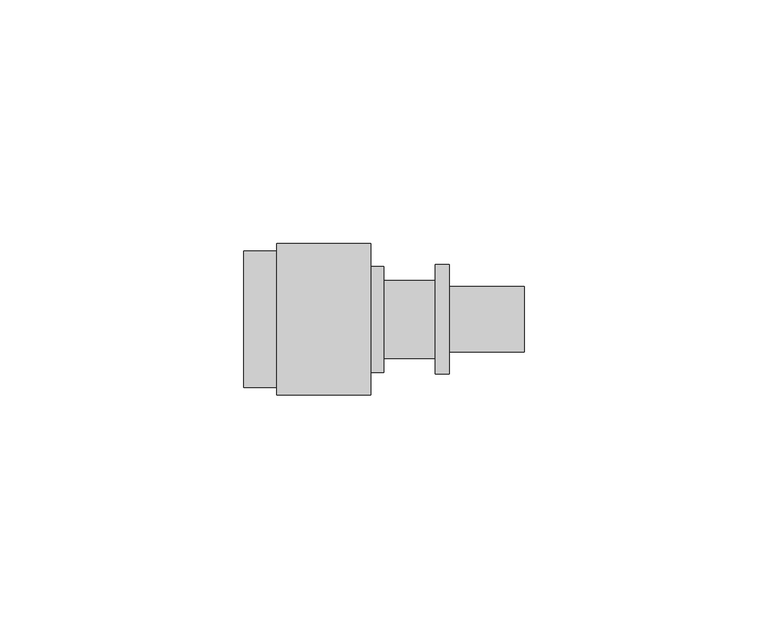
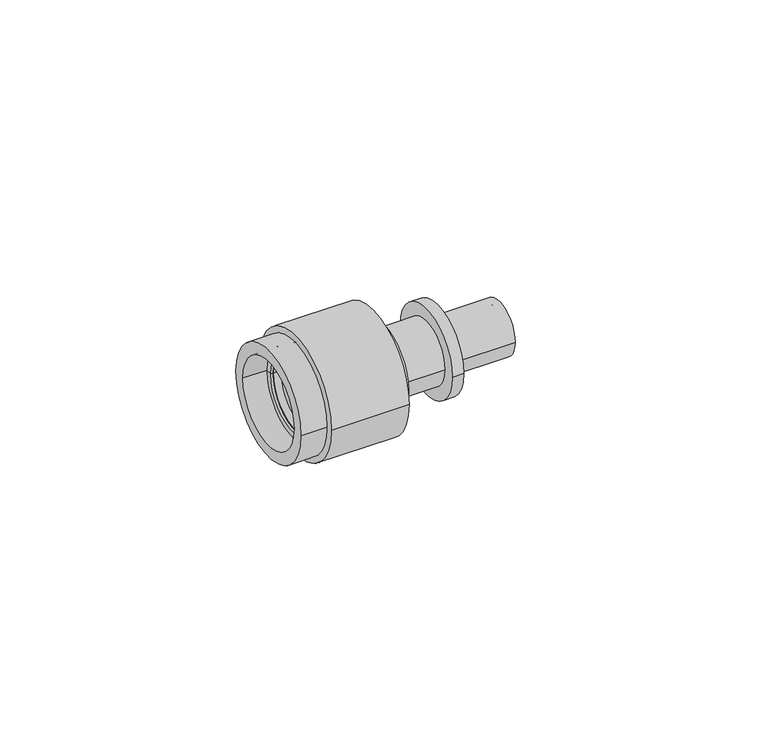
"""IFC4 building model written with IfcOpenShell, lengths in millimetres: pipe fitting geometry, REHAU_RAUTITAN_Adaptor RX+, MeplaFix : REHAU_RAUTITAN_Adaptor RX+, MeplaFix."""

import ifcopenshell
import ifcopenshell.guid

model = None  # the IFC model being written
_history = None  # IfcOwnerHistory: only IFC2X3 demands one
_inside = {}  # id of a spatial element -> (the spatial element, [elements in it])
_under = {}  # id of a project, library or spatial element -> (it, [spatial elements below it])
_declared = {}  # id of a project -> (the project, [libraries it declares])
_typed = {}  # id of a type object -> (the type object, [elements of that type])
_made_of = {}  # id of a material, layer set ... -> (it, [elements and type objects made of it])


def new_model(schema):
    """Start an empty IFC model of exactly this schema.

    Asked for "IFC4X3", IfcOpenShell would pick the latest addendum, in which some entities
    have other attributes; the version numbers below select the first issue.
    IFC2X3 requires an IfcOwnerHistory on every rooted entity: one is made here for all.
    """
    global model, _history
    if schema == "IFC4X3":
        model = ifcopenshell.file(schema_version=(4, 3, 0, 0))
    else:
        model = ifcopenshell.file(schema=schema)
    _inside.clear()
    _under.clear()
    _declared.clear()
    _typed.clear()
    _made_of.clear()
    _history = None
    if model.schema == "IFC2X3":
        org = make("IfcOrganization", Name="unknown")
        user = make(
            "IfcPersonAndOrganization",
            ThePerson=make("IfcPerson", FamilyName="unknown"),
            TheOrganization=org,
        )
        app = make(
            "IfcApplication",
            ApplicationDeveloper=org,
            Version="unknown",
            ApplicationFullName="unknown",
            ApplicationIdentifier="unknown",
        )
        _history = make(
            "IfcOwnerHistory",
            OwningUser=user,
            OwningApplication=app,
            ChangeAction="ADDED",
            CreationDate=0,
        )
    return model


def make(cls, **values):
    """One entity of the class cls with the attributes given. An attribute that is None is left unset."""
    return model.create_entity(
        cls, **{name: value for name, value in values.items() if value is not None}
    )


def rooted(cls, **values):
    """An entity with a GlobalId (a new one), such as an element, a storey or a relation."""
    return make(cls, GlobalId=ifcopenshell.guid.new(), OwnerHistory=_history, **values)


def si_unit(unit_type, name, prefix=None):
    """IfcSIUnit, for example si_unit("LENGTHUNIT", "METRE", prefix="MILLI")."""
    return make("IfcSIUnit", UnitType=unit_type, Prefix=prefix, Name=name)


def assignment(units):
    """IfcUnitAssignment: the units of a project."""
    return None if units is None else make("IfcUnitAssignment", Units=units)


def point(xyz):
    """IfcCartesianPoint."""
    return None if xyz is None else make("IfcCartesianPoint", Coordinates=xyz)


def direction(xyz):
    """IfcDirection."""
    return None if xyz is None else make("IfcDirection", DirectionRatios=xyz)


def frame(location, z_axis=None, x_axis=None):
    """IfcAxis2Placement3D, a coordinate frame: its origin and axes. An axis left out is left unset."""
    return make(
        "IfcAxis2Placement3D",
        Location=point(location),
        Axis=direction(z_axis),
        RefDirection=direction(x_axis),
    )


def frame_2d(location, x_axis=None):
    """IfcAxis2Placement2D, a coordinate frame in the plane: its origin and x axis."""
    return make(
        "IfcAxis2Placement2D", Location=point(location), RefDirection=direction(x_axis)
    )


def origin():
    """The frame at (0, 0, 0) with its axes left unset."""
    return frame((0.0, 0.0, 0.0))


def origin_2d():
    """The frame at (0, 0) in the plane with its x axis left unset."""
    return frame_2d((0.0, 0.0))


def place(relative_to, where):
    """IfcLocalPlacement: puts the frame where relative to a parent placement (None: the world)."""
    return make(
        "IfcLocalPlacement", PlacementRelTo=relative_to, RelativePlacement=where
    )


def context(
    kind, dimensions, precision=None, world=None, true_north=None, identifier=None
):
    """IfcGeometricRepresentationContext, for example the 3D "Model" context."""
    return make(
        "IfcGeometricRepresentationContext",
        ContextIdentifier=identifier,
        ContextType=kind,
        CoordinateSpaceDimension=dimensions,
        Precision=precision,
        WorldCoordinateSystem=world,
        TrueNorth=true_north,
    )


def project(units=None, contexts=None):
    """IfcProject with its units and contexts."""
    return rooted(
        "IfcProject",
        Name="project",
        RepresentationContexts=contexts,
        UnitsInContext=assignment(units),
    )


def spatial(cls, under=None, at=None, **own):
    """A site, building, storey or space (cls), placed at a placement, below another one or the project."""
    s = rooted(cls, ObjectPlacement=at, **own)
    if under is not None:
        _under.setdefault(under.id(), (under, []))[1].append(s)
    return s


def polyline(points):
    """IfcPolyline through the points."""
    return make("IfcPolyline", Points=[point(p) for p in points])


def circle_curve(where, radius):
    """IfcCircle in the frame where."""
    return make("IfcCircle", Position=where, Radius=radius)


def trimmed(basis, trim1, trim2, sense, master):
    """IfcTrimmedCurve: the piece of a basis curve between two trims."""
    return make(
        "IfcTrimmedCurve",
        BasisCurve=basis,
        Trim1=trim1,
        Trim2=trim2,
        SenseAgreement=sense,
        MasterRepresentation=master,
    )


def segment(curve, same_sense, transition):
    """IfcCompositeCurveSegment."""
    return make(
        "IfcCompositeCurveSegment",
        Transition=transition,
        SameSense=same_sense,
        ParentCurve=curve,
    )


def composite_curve(segments, self_intersect=None):
    """IfcCompositeCurve: segments joined end to end."""
    return make("IfcCompositeCurve", Segments=segments, SelfIntersect=self_intersect)


def outline(outer, holes=None, kind="AREA"):
    """IfcArbitraryClosedProfileDef: a profile drawn as a closed curve; with holes, ...WithVoids."""
    if holes is None:
        return make("IfcArbitraryClosedProfileDef", ProfileType=kind, OuterCurve=outer)
    return make(
        "IfcArbitraryProfileDefWithVoids",
        ProfileType=kind,
        OuterCurve=outer,
        InnerCurves=holes,
    )


def extrude(swept, where, along, depth):
    """IfcExtrudedAreaSolid: the profile swept, set in the frame where, extruded along a direction by depth."""
    return make(
        "IfcExtrudedAreaSolid",
        SweptArea=swept,
        Position=where,
        ExtrudedDirection=direction(along),
        Depth=depth,
    )


def shape(context_of_items, identifier, shape_type, items):
    """IfcShapeRepresentation: the items that make up one representation, for example the "Body"."""
    return make(
        "IfcShapeRepresentation",
        ContextOfItems=context_of_items,
        RepresentationIdentifier=identifier,
        RepresentationType=shape_type,
        Items=items,
    )


def source(mapping_origin, context_of_items, identifier, shape_type, items):
    """IfcRepresentationMap: a shape defined once, which mapped items show again and again."""
    return make(
        "IfcRepresentationMap",
        MappingOrigin=mapping_origin,
        MappedRepresentation=shape(context_of_items, identifier, shape_type, items),
    )


def transform(
    local_origin,
    x_axis=None,
    y_axis=None,
    z_axis=None,
    scale=None,
    scale2=None,
    scale3=None,
    uniform=True,
):
    """IfcCartesianTransformationOperator3D, or its non-uniform kind. x_axis, y_axis, z_axis: its Axis1, 2, 3."""
    if uniform:
        return make(
            "IfcCartesianTransformationOperator3D",
            Axis1=direction(x_axis),
            Axis2=direction(y_axis),
            LocalOrigin=point(local_origin),
            Scale=scale,
            Axis3=direction(z_axis),
        )
    return make(
        "IfcCartesianTransformationOperator3DnonUniform",
        Axis1=direction(x_axis),
        Axis2=direction(y_axis),
        LocalOrigin=point(local_origin),
        Scale=scale,
        Axis3=direction(z_axis),
        Scale2=scale2,
        Scale3=scale3,
    )


def mapped(mapping_source, mapping_target):
    """IfcMappedItem: shows the shape of a source again, moved by a transform."""
    return make(
        "IfcMappedItem", MappingSource=mapping_source, MappingTarget=mapping_target
    )


def made_of(thing, what):
    """Note that an element or type object is made of a material, layer set ...; save() writes the relation."""
    if what is not None:
        _made_of.setdefault(what.id(), (what, []))[1].append(thing)
    return thing


def element(
    cls,
    number,
    at=None,
    inside=None,
    cuts=None,
    type_object=None,
    material=None,
    context=None,
    identifier="Body",
    shape_type=None,
    held_by="IfcProductDefinitionShape",
    body=None,
    shapes=None,
    **own,
):
    """One element of the class cls, such as IfcWall. Its Tag is "e" and its number.

    at: its placement. inside: the storey or other place that contains it. cuts: it is an
    opening in that element (IfcRelVoidsElement). A single representation is given by context,
    identifier, shape_type and body (its items); several are given by shapes. held_by: the class
    of the entity that holds the representations. save() writes the other relations.
    """
    e = rooted(cls, Tag="e%d" % number, ObjectPlacement=at, **own)
    if body is not None:
        shapes = [shape(context, identifier, shape_type, body)]
    if shapes is not None:
        e.Representation = make(held_by, Representations=shapes)
    if inside is not None:
        _inside.setdefault(inside.id(), (inside, []))[1].append(e)
    if cuts is not None:
        rooted(
            "IfcRelVoidsElement", RelatingBuildingElement=cuts, RelatedOpeningElement=e
        )
    if type_object is not None:
        _typed.setdefault(type_object.id(), (type_object, []))[1].append(e)
    return made_of(e, material)


def aggregate(whole, parts):
    """IfcRelAggregates: a whole, such as a stair, and the parts it consists of."""
    return rooted("IfcRelAggregates", RelatingObject=whole, RelatedObjects=parts)


def save(model, path):
    """Write the relations noted so far, then the file.

    IfcRelAggregates (storeys below a building ...), IfcRelContainedInSpatialStructure (elements
    in a storey), IfcRelDefinesByType, IfcRelAssociatesMaterial and IfcRelDeclares: one each for
    every whole, place, type object, material and project.
    """
    for whole, parts in _under.values():
        aggregate(whole, parts)
    for where, things in _inside.values():
        rooted(
            "IfcRelContainedInSpatialStructure",
            RelatedElements=things,
            RelatingStructure=where,
        )
    for kind, things in _typed.values():
        rooted("IfcRelDefinesByType", RelatedObjects=things, RelatingType=kind)
    for what, things in _made_of.values():
        rooted("IfcRelAssociatesMaterial", RelatedObjects=things, RelatingMaterial=what)
    for by, libraries in _declared.values():
        rooted("IfcRelDeclares", RelatingContext=by, RelatedDefinitions=libraries)
    model.write(path)


def plane_surface(at):
    """IfcPlane: the flat surface through the origin of the frame at, square to its z axis."""
    return make("IfcPlane", Position=at)


def cylinder_surface(at, radius):
    """IfcCylindricalSurface: all points at the distance radius from the z axis of the frame at."""
    return make("IfcCylindricalSurface", Position=at, Radius=radius)


def revolved_surface(curve, axis_point, axis_direction):
    """IfcSurfaceOfRevolution: the curve turned about the line through axis_point along axis_direction."""
    return make(
        "IfcSurfaceOfRevolution",
        SweptCurve=make("IfcArbitraryOpenProfileDef", ProfileType="CURVE", Curve=curve),
        AxisPosition=make("IfcAxis1Placement", Location=point(axis_point), Axis=direction(axis_direction)),
    )


def advanced_brep(points, edges, surfaces, faces):
    """IfcAdvancedBrep: a solid bounded by faces that lie on surfaces and meet in shared edges.

    An edge is (start, end): straight between two places in points (the first is 0);
    or (start, end, curve); or (start, end, curve, False) where it runs against its curve.
    A face is (place in surfaces, loops), or (place, loops, False) where it looks against
    its surface's normal. A loop lists edges by number (the first is 1), with a minus sign
    where the edge is run from its end to its start. The first loop is the outer one.
    """
    corners = [point(p) for p in points]
    vertices = [make("IfcVertexPoint", VertexGeometry=c) for c in corners]
    made = []
    for start, end, *more in edges:
        made.append(
            make(
                "IfcEdgeCurve",
                EdgeStart=vertices[start],
                EdgeEnd=vertices[end],
                EdgeGeometry=more[0] if more else make("IfcPolyline", Points=[corners[start], corners[end]]),
                SameSense=more[1] if len(more) > 1 else True,
            )
        )
    hull = []
    for where, loops, *sense in faces:
        bounds = []
        for j, loop in enumerate(loops):
            ring = [make("IfcOrientedEdge", EdgeElement=made[abs(k) - 1], Orientation=k > 0) for k in loop]
            bounds.append(
                make(
                    "IfcFaceOuterBound" if j == 0 else "IfcFaceBound",
                    Bound=make("IfcEdgeLoop", EdgeList=ring),
                    Orientation=True,
                )
            )
        hull.append(make("IfcAdvancedFace", Bounds=bounds, FaceSurface=surfaces[where], SameSense=sense[0] if sense else True))
    return make("IfcAdvancedBrep", Outer=make("IfcClosedShell", CfsFaces=hull))


def pipe_fitting_1f627e11(model_context):
    return source(origin(), model_context, "Body", "SolidModel", [
        advanced_brep(
        [(-7.65, -15.5, 0.0), (-7.65, 15.5, 0.0), (-7.65, 12.7, 0.0), (-7.65, -12.7, 0.0), (-26.95, -15.5, 0.0), (-26.95, 15.5, 0.0), (-26.95, -9.3, 0.0), (-26.95, 9.3, 0.0), (-16.65, -12.7, 0.0), (-16.65, 12.7, 0.0), (-16.65, 10.5, 0.0), (-16.65, -10.5, 0.0), (-18.55, 10.5, 0.0), (-18.55, -10.5, 0.0), (-18.55, 8.7, 0.0), (-18.55, -8.7, 0.0), (-20.05, 8.7, 0.0), (-20.05, -8.7, 0.0), (-20.05, 10.7, 0.0), (-20.05, -10.7, 0.0), (-23.75, 10.7, 0.0), (-23.75, -10.7, 0.0), (-23.75, 9.3, 0.0), (-23.75, -9.3, 0.0)],
        [
            (0, 1, circle_curve(frame((-7.65, 0.0, 0.0), z_axis=(1.0, 0.0, 0.0), x_axis=(0.0, 1.0, 0.0)), 15.5)),
            (1, 0, circle_curve(frame((-7.65, 0.0, 0.0), z_axis=(1.0, 0.0, 0.0), x_axis=(0.0, 1.0, 0.0)), 15.5)),
            (2, 3, circle_curve(frame((-7.65, 0.0, 0.0), z_axis=(-1.0, 0.0, 0.0), x_axis=(0.0, 1.0, 0.0)), 12.7)),
            (3, 2, circle_curve(frame((-7.65, 0.0, 0.0), z_axis=(-1.0, 0.0, 0.0), x_axis=(0.0, 1.0, 0.0)), 12.7)),
            (4, 5, circle_curve(frame((-26.95, 0.0, 0.0), z_axis=(-1.0, 0.0, 0.0), x_axis=(0.0, 1.0, 0.0)), 15.5)),
            (5, 4, circle_curve(frame((-26.95, 0.0, 0.0), z_axis=(-1.0, 0.0, 0.0), x_axis=(0.0, 1.0, 0.0)), 15.5)),
            (6, 7, circle_curve(frame((-26.95, 0.0, 0.0), z_axis=(1.0, 0.0, 0.0), x_axis=(0.0, 1.0, 0.0)), 9.3)),
            (7, 6, circle_curve(frame((-26.95, 0.0, 0.0), z_axis=(1.0, 0.0, 0.0), x_axis=(0.0, 1.0, 0.0)), 9.3)),
            (0, 4),
            (5, 1),
            (8, 3),
            (2, 9),
            (9, 8, circle_curve(frame((-16.65, 0.0, 0.0), z_axis=(-1.0, 0.0, 0.0), x_axis=(0.0, 1.0, 0.0)), 12.7)),
            (8, 9, circle_curve(frame((-16.65, 0.0, 0.0), z_axis=(-1.0, 0.0, 0.0), x_axis=(0.0, 1.0, 0.0)), 12.7)),
            (9, 10),
            (10, 11, circle_curve(frame((-16.65, 0.0, 0.0), z_axis=(-1.0, 0.0, 0.0), x_axis=(0.0, 1.0, 0.0)), 10.5)),
            (11, 8),
            (11, 10, circle_curve(frame((-16.65, 0.0, 0.0), z_axis=(-1.0, 0.0, 0.0), x_axis=(0.0, 1.0, 0.0)), 10.5)),
            (10, 12),
            (12, 13, circle_curve(frame((-18.55, 0.0, 0.0), z_axis=(-1.0, 0.0, 0.0), x_axis=(0.0, 1.0, 0.0)), 10.5)),
            (13, 11),
            (13, 12, circle_curve(frame((-18.55, 0.0, 0.0), z_axis=(-1.0, 0.0, 0.0), x_axis=(0.0, 1.0, 0.0)), 10.5)),
            (12, 14),
            (14, 15, circle_curve(frame((-18.55, 0.0, 0.0), z_axis=(-1.0, 0.0, 0.0), x_axis=(0.0, 1.0, 0.0)), 8.7)),
            (15, 13),
            (15, 14, circle_curve(frame((-18.55, 0.0, 0.0), z_axis=(-1.0, 0.0, 0.0), x_axis=(0.0, 1.0, 0.0)), 8.7)),
            (14, 16),
            (16, 17, circle_curve(frame((-20.05, 0.0, 0.0), z_axis=(-1.0, 0.0, 0.0), x_axis=(0.0, 1.0, 0.0)), 8.7)),
            (17, 15),
            (17, 16, circle_curve(frame((-20.05, 0.0, 0.0), z_axis=(-1.0, 0.0, 0.0), x_axis=(0.0, 1.0, 0.0)), 8.7)),
            (16, 18),
            (18, 19, circle_curve(frame((-20.05, 0.0, 0.0), z_axis=(-1.0, 0.0, 0.0), x_axis=(0.0, 1.0, 0.0)), 10.7)),
            (19, 17),
            (19, 18, circle_curve(frame((-20.05, 0.0, 0.0), z_axis=(-1.0, 0.0, 0.0), x_axis=(0.0, 1.0, 0.0)), 10.7)),
            (18, 20),
            (20, 21, circle_curve(frame((-23.75, 0.0, 0.0), z_axis=(-1.0, 0.0, 0.0), x_axis=(0.0, 1.0, 0.0)), 10.7)),
            (21, 19),
            (21, 20, circle_curve(frame((-23.75, 0.0, 0.0), z_axis=(-1.0, 0.0, 0.0), x_axis=(0.0, 1.0, 0.0)), 10.7)),
            (20, 22),
            (22, 23, circle_curve(frame((-23.75, 0.0, 0.0), z_axis=(-1.0, 0.0, 0.0), x_axis=(0.0, 1.0, 0.0)), 9.3)),
            (23, 21),
            (23, 22, circle_curve(frame((-23.75, 0.0, 0.0), z_axis=(-1.0, 0.0, 0.0), x_axis=(0.0, 1.0, 0.0)), 9.3)),
            (22, 7),
            (6, 23),
        ],
        [
            plane_surface(frame((-7.65, 15.5, 0.0), z_axis=(1.0, 0.0, 0.0), x_axis=(0.0, 0.0, 1.0))),
            plane_surface(frame((-26.95, 15.5, 0.0), z_axis=(-1.0, 0.0, 0.0), x_axis=(0.0, 0.0, -1.0))),
            cylinder_surface(frame((-26.95, 0.0, 0.0), z_axis=(1.0, 0.0, 0.0), x_axis=(0.0, 1.0, 0.0)), 15.5),
            revolved_surface(polyline([(-16.65, 12.7, 0.0), (-7.65, 12.7, 0.0)]), (-7.65, 0.0, 0.0), (-1.0, 0.0, 0.0)),
            plane_surface(frame((-16.65, 0.0, 0.0), z_axis=(1.0, 0.0, 0.0), x_axis=(0.0, 1.0, 0.0))),
            revolved_surface(polyline([(-18.55, 10.5, 0.0), (-16.65, 10.5, 0.0)]), (-7.65, 0.0, 0.0), (-1.0, 0.0, 0.0)),
            plane_surface(frame((-18.55, 0.0, 0.0), z_axis=(1.0, 0.0, 0.0), x_axis=(0.0, 1.0, 0.0))),
            revolved_surface(polyline([(-20.05, 8.7, 0.0), (-18.55, 8.7, 0.0)]), (-7.65, 0.0, 0.0), (-1.0, 0.0, 0.0)),
            plane_surface(frame((-20.05, 0.0, 0.0), z_axis=(-1.0, 0.0, 0.0), x_axis=(0.0, 1.0, 0.0))),
            revolved_surface(polyline([(-23.75, 10.7, 0.0), (-20.05, 10.7, 0.0)]), (-7.65, 0.0, 0.0), (-1.0, 0.0, 0.0)),
            plane_surface(frame((-23.75, 0.0, 0.0), z_axis=(1.0, 0.0, 0.0), x_axis=(0.0, 1.0, 0.0))),
            revolved_surface(polyline([(-26.949999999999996, 9.3, 0.0), (-23.75, 9.3, 0.0)]), (-7.65, 0.0, 0.0), (-1.0, 0.0, 0.0)),
        ],
        [
            (0, [[1, 2], [3, 4]]),
            (1, [[5, 6], [7, 8]]),
            (2, [[-1, 9, -6, 10]]),
            (2, [[-2, -10, -5, -9]]),
            (3, [[11, -3, 12, 13]]),
            (3, [[-11, 14, -12, -4]]),
            (4, [[-13, 15, 16, 17]]),
            (4, [[-14, -17, 18, -15]]),
            (5, [[-16, 19, 20, 21]]),
            (5, [[-18, -21, 22, -19]]),
            (6, [[-20, 23, 24, 25]]),
            (6, [[-22, -25, 26, -23]]),
            (7, [[-24, 27, 28, 29]]),
            (7, [[-26, -29, 30, -27]]),
            (8, [[-28, 31, 32, 33]]),
            (8, [[-30, -33, 34, -31]]),
            (9, [[-32, 35, 36, 37]]),
            (9, [[-34, -37, 38, -35]]),
            (10, [[-36, 39, 40, 41]]),
            (10, [[-38, -41, 42, -39]]),
            (11, [[-40, 43, -7, 44]]),
            (11, [[-42, -44, -8, -43]]),
        ],
    ),
        advanced_brep(
        [(-26.95, -14.0, 0.0), (-26.95, 14.0, 0.0), (-26.95, 9.3, 0.0), (-26.95, -9.3, 0.0), (-33.65, -14.0, 0.0), (-33.65, 14.0, 0.0), (-33.65, -11.0, 0.0), (-33.65, 11.0, 0.0), (-27.75, -11.0, 0.0), (-27.75, 11.0, 0.0), (-27.75, 9.3, 0.0), (-27.75, -9.3, 0.0)],
        [
            (0, 1, circle_curve(frame((-26.95, 0.0, 0.0), z_axis=(1.0, 0.0, 0.0), x_axis=(0.0, 1.0, 0.0)), 14.0)),
            (1, 0, circle_curve(frame((-26.95, 0.0, 0.0), z_axis=(1.0, 0.0, 0.0), x_axis=(0.0, 1.0, 0.0)), 14.0)),
            (2, 3, circle_curve(frame((-26.95, 0.0, 0.0), z_axis=(-1.0, 0.0, 0.0), x_axis=(0.0, 1.0, 0.0)), 9.3)),
            (3, 2, circle_curve(frame((-26.95, 0.0, 0.0), z_axis=(-1.0, 0.0, 0.0), x_axis=(0.0, 1.0, 0.0)), 9.3)),
            (4, 5, circle_curve(frame((-33.65, 0.0, 0.0), z_axis=(-1.0, 0.0, 0.0), x_axis=(0.0, 1.0, 0.0)), 14.0)),
            (5, 4, circle_curve(frame((-33.65, 0.0, 0.0), z_axis=(-1.0, 0.0, 0.0), x_axis=(0.0, 1.0, 0.0)), 14.0)),
            (6, 7, circle_curve(frame((-33.65, 0.0, 0.0), z_axis=(1.0, 0.0, 0.0), x_axis=(0.0, 1.0, 0.0)), 11.0)),
            (7, 6, circle_curve(frame((-33.65, 0.0, 0.0), z_axis=(1.0, 0.0, 0.0), x_axis=(0.0, 1.0, 0.0)), 11.0)),
            (0, 4),
            (5, 1),
            (6, 8),
            (8, 9, circle_curve(frame((-27.75, 0.0, 0.0), z_axis=(1.0, 0.0, 0.0), x_axis=(0.0, 1.0, 0.0)), 11.0)),
            (9, 7),
            (9, 8, circle_curve(frame((-27.75, 0.0, 0.0), z_axis=(1.0, 0.0, 0.0), x_axis=(0.0, 1.0, 0.0)), 11.0)),
            (10, 11, circle_curve(frame((-27.75, 0.0, 0.0), z_axis=(-1.0, 0.0, 0.0), x_axis=(0.0, 1.0, 0.0)), 9.3)),
            (11, 3),
            (2, 10),
            (11, 10, circle_curve(frame((-27.75, 0.0, 0.0), z_axis=(-1.0, 0.0, 0.0), x_axis=(0.0, 1.0, 0.0)), 9.3)),
            (8, 11),
            (10, 9),
        ],
        [
            plane_surface(frame((-26.95, 14.0, 0.0), z_axis=(1.0, 0.0, 0.0), x_axis=(0.0, 0.0, 1.0))),
            plane_surface(frame((-33.65, 14.0, 0.0), z_axis=(-1.0, 0.0, 0.0), x_axis=(0.0, 0.0, -1.0))),
            cylinder_surface(frame((-33.65, 0.0, 0.0), z_axis=(1.0, 0.0, 0.0), x_axis=(0.0, 1.0, 0.0)), 14.0),
            revolved_surface(polyline([(-33.65, 11.0, 0.0), (-27.75, 11.0, 0.0)]), (-7.65, 0.0, 0.0), (-1.0, 0.0, 0.0)),
            revolved_surface(polyline([(-27.75, 9.3, 0.0), (-26.949999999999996, 9.3, 0.0)]), (-7.65, 0.0, 0.0), (-1.0, 0.0, 0.0)),
            plane_surface(frame((-27.75, 0.0, 0.0), z_axis=(-1.0, 0.0, 0.0), x_axis=(0.0, 1.0, 0.0))),
        ],
        [
            (0, [[1, 2], [3, 4]]),
            (1, [[5, 6], [7, 8]]),
            (2, [[-1, 9, -6, 10]]),
            (2, [[-2, -10, -5, -9]]),
            (3, [[11, 12, 13, -7]]),
            (3, [[-11, -8, -13, 14]]),
            (4, [[15, 16, -3, 17]]),
            (4, [[18, -17, -4, -16]]),
            (5, [[-12, 19, -15, 20]]),
            (5, [[-14, -20, -18, -19]]),
        ],
    ),
        extrude(outline(composite_curve([segment(trimmed(circle_curve(origin_2d(), 7.4), [point((-7.4, 0.0))], [point((7.4, 0.0))], False, "CARTESIAN"), True, "CONTINUOUS"), segment(trimmed(circle_curve(origin_2d(), 7.4), [point((7.4, 0.0))], [point((-7.4, 0.0))], False, "CARTESIAN"), True, "CONTINUOUS")], self_intersect=False)), frame((-26.05, 0.0, 0.0), z_axis=(1.0, 0.0, 0.0), x_axis=(0.0, 1.0, 0.0)), (0.0, 0.0, 1.0), 7.45),
        extrude(outline(composite_curve([segment(trimmed(circle_curve(origin_2d(), 6.35), [point((-6.35, 0.0))], [point((6.35, 0.0))], False, "CARTESIAN"), True, "CONTINUOUS"), segment(trimmed(circle_curve(origin_2d(), 6.35), [point((6.35, 0.0))], [point((-6.35, 0.0))], False, "CARTESIAN"), True, "CONTINUOUS")], self_intersect=False)), frame((-18.6, 0.0, 0.0), z_axis=(1.0, 0.0, 0.0), x_axis=(0.0, 1.0, 0.0)), (0.0, 0.0, 1.0), 1.97),
        extrude(outline(composite_curve([segment(trimmed(circle_curve(origin_2d(), 7.4), [point((-7.4, 0.0))], [point((7.4, 0.0))], False, "CARTESIAN"), True, "CONTINUOUS"), segment(trimmed(circle_curve(origin_2d(), 7.4), [point((7.4, 0.0))], [point((-7.4, 0.0))], False, "CARTESIAN"), True, "CONTINUOUS")], self_intersect=False)), frame((-16.63, 0.0, 0.0), z_axis=(1.0, 0.0, 0.0), x_axis=(0.0, 1.0, 0.0)), (0.0, 0.0, 1.0), 8.98),
        extrude(outline(composite_curve([segment(trimmed(circle_curve(origin_2d(), 10.85), [point((-10.85, 0.0))], [point((10.85, 0.0))], False, "CARTESIAN"), True, "CONTINUOUS"), segment(trimmed(circle_curve(origin_2d(), 10.85), [point((10.85, 0.0))], [point((-10.85, 0.0))], False, "CARTESIAN"), True, "CONTINUOUS")], self_intersect=False)), frame((-7.65, 0.0, 0.0), z_axis=(1.0, 0.0, 0.0), x_axis=(0.0, 1.0, 0.0)), (0.0, 0.0, 1.0), 2.6),
        extrude(outline(composite_curve([segment(trimmed(circle_curve(origin_2d(), 8.0), [point((-8.0, 0.0))], [point((8.0, 0.0))], False, "CARTESIAN"), True, "CONTINUOUS"), segment(trimmed(circle_curve(origin_2d(), 8.0), [point((8.0, 0.0))], [point((-8.0, 0.0))], False, "CARTESIAN"), True, "CONTINUOUS")], self_intersect=False), holes=[composite_curve([segment(trimmed(circle_curve(origin_2d(), 4.95), [point((-4.95, 0.0))], [point((4.95, 0.0))], True, "CARTESIAN"), True, "CONTINUOUS"), segment(trimmed(circle_curve(origin_2d(), 4.95), [point((4.95, 0.0))], [point((-4.95, 0.0))], True, "CARTESIAN"), True, "CONTINUOUS")], self_intersect=False)]), frame((-5.05, 0.0, 0.0), z_axis=(1.0, 0.0, 0.0), x_axis=(0.0, 1.0, 0.0)), (0.0, 0.0, 1.0), 10.58),
        extrude(outline(composite_curve([segment(trimmed(circle_curve(origin_2d(), 6.725), [point((-6.725, 0.0))], [point((6.725, 0.0))], False, "CARTESIAN"), True, "CONTINUOUS"), segment(trimmed(circle_curve(origin_2d(), 6.725), [point((6.725, 0.0))], [point((-6.725, 0.0))], False, "CARTESIAN"), True, "CONTINUOUS")], self_intersect=False), holes=[composite_curve([segment(trimmed(circle_curve(origin_2d(), 4.95), [point((-4.95, 0.0))], [point((4.95, 0.0))], True, "CARTESIAN"), True, "CONTINUOUS"), segment(trimmed(circle_curve(origin_2d(), 4.95), [point((4.95, 0.0))], [point((-4.95, 0.0))], True, "CARTESIAN"), True, "CONTINUOUS")], self_intersect=False)]), frame((8.4, 0.0, 0.0), z_axis=(1.0, 0.0, 0.0), x_axis=(0.0, 1.0, 0.0)), (0.0, 0.0, 1.0), 15.35),
        extrude(outline(composite_curve([segment(trimmed(circle_curve(origin_2d(), 11.25), [point((-11.25, 0.0))], [point((11.25, 0.0))], False, "CARTESIAN"), True, "CONTINUOUS"), segment(trimmed(circle_curve(origin_2d(), 11.25), [point((11.25, 0.0))], [point((-11.25, 0.0))], False, "CARTESIAN"), True, "CONTINUOUS")], self_intersect=False)), frame((5.53, 0.0, 0.0), z_axis=(1.0, 0.0, 0.0), x_axis=(0.0, 1.0, 0.0)), (0.0, 0.0, 1.0), 2.87),
    ])


if __name__ == "__main__":
    model = new_model("IFC4")
    model_context = context("Model", 3, world=origin())
    ifc_project = project(units=[si_unit("LENGTHUNIT", "METRE", prefix="MILLI")], contexts=[model_context])
    site = spatial("IfcSite", under=ifc_project)
    building = spatial("IfcBuilding", under=site)
    placement = place(None, origin())
    pipe_fitting_shape = pipe_fitting_1f627e11(model_context)
    element("IfcPipeFitting", 1, ObjectType="REHAU_RAUTITAN_Adaptor RX+, MeplaFix : REHAU_RAUTITAN_Adaptor RX+, MeplaFix", at=placement, inside=building, context=model_context, shape_type="MappedRepresentation", body=[
        mapped(pipe_fitting_shape, transform((0.0, 0.0, 0.0), x_axis=(1.0, 0.0, 0.0), y_axis=(0.0, 1.0, 0.0), z_axis=(0.0, 0.0, 1.0))),
    ])
    save(model, "model.ifc")
